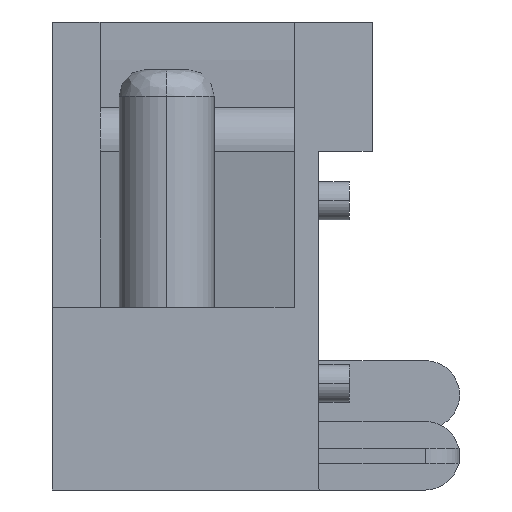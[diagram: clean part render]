
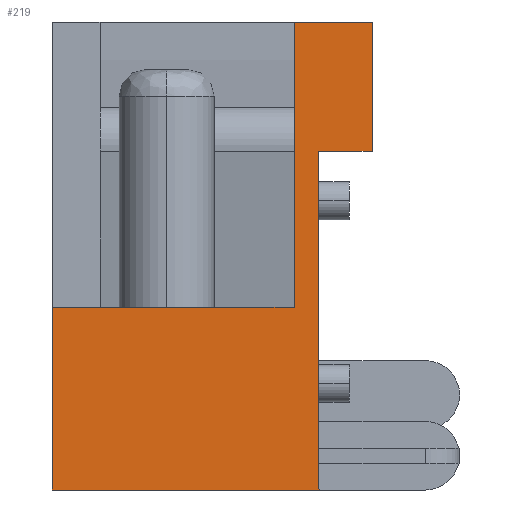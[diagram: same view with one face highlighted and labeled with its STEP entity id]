
A CAD part, left-side view. The second image highlights one B-rep face of the part: STEP entity #219.
In plain terms, the highlighted planar face has unit normal (-1, 0, 0).
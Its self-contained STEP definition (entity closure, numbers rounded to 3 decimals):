
#51 = VERTEX_POINT ( 'NONE', #521 ) ;
#54 = EDGE_CURVE ( 'NONE', #55, #51, #519, .T. ) ;
#55 = VERTEX_POINT ( 'NONE', #515 ) ;
#219 = ADVANCED_FACE ( 'NONE', ( #965 ), #963, .T. ) ;
#220 = EDGE_LOOP ( 'NONE', ( #221, #223, #280, #281, #282, #283, #284, #285 ) ) ;
#221 = ORIENTED_EDGE ( 'NONE', *, *, #222, .F. ) ;
#222 = EDGE_CURVE ( 'NONE', #296, #51, #964, .T. ) ;
#223 = ORIENTED_EDGE ( 'NONE', *, *, #295, .T. ) ;
#240 = EDGE_CURVE ( 'NONE', #1821, #1860, #999, .T. ) ;
#280 = ORIENTED_EDGE ( 'NONE', *, *, #1851, .T. ) ;
#281 = ORIENTED_EDGE ( 'NONE', *, *, #240, .T. ) ;
#282 = ORIENTED_EDGE ( 'NONE', *, *, #1872, .T. ) ;
#283 = ORIENTED_EDGE ( 'NONE', *, *, #1874, .T. ) ;
#284 = ORIENTED_EDGE ( 'NONE', *, *, #1892, .T. ) ;
#285 = ORIENTED_EDGE ( 'NONE', *, *, #54, .T. ) ;
#295 = EDGE_CURVE ( 'NONE', #296, #1820, #1144, .T. ) ;
#296 = VERTEX_POINT ( 'NONE', #1140 ) ;
#515 = CARTESIAN_POINT ( 'NONE',  ( -5.4, 7.8, -12.3 ) ) ;
#516 = DIRECTION ( 'NONE',  ( 0., -1., 0. ) ) ;
#517 = VECTOR ( 'NONE', #516, 1000. ) ;
#518 = CARTESIAN_POINT ( 'NONE',  ( -5.4, 0.8, -12.3 ) ) ;
#519 = LINE ( 'NONE', #518, #517 ) ;
#521 = CARTESIAN_POINT ( 'NONE',  ( -5.4, 0.8, -12.3 ) ) ;
#956 = DIRECTION ( 'NONE',  ( 0., 0., -1. ) ) ;
#957 = VECTOR ( 'NONE', #956, 1000. ) ;
#958 = CARTESIAN_POINT ( 'NONE',  ( -5.4, 0.8, -12.3 ) ) ;
#959 = DIRECTION ( 'NONE',  ( 0., -1., 0. ) ) ;
#960 = DIRECTION ( 'NONE',  ( -1., 0., 0. ) ) ;
#961 = CARTESIAN_POINT ( 'NONE',  ( -5.4, 7.8, -12.3 ) ) ;
#962 = AXIS2_PLACEMENT_3D ( 'NONE', #961, #960, #959 ) ;
#963 = PLANE ( 'NONE',  #962 ) ;
#964 = LINE ( 'NONE', #958, #957 ) ;
#965 = FACE_OUTER_BOUND ( 'NONE', #220, .T. ) ;
#993 = DIRECTION ( 'NONE',  ( 0., 1., 0. ) ) ;
#994 = VECTOR ( 'NONE', #993, 1000. ) ;
#995 = CARTESIAN_POINT ( 'NONE',  ( -5.4, 7.8, 0. ) ) ;
#999 = LINE ( 'NONE', #995, #994 ) ;
#1140 = CARTESIAN_POINT ( 'NONE',  ( -5.4, 0.8, -3.4 ) ) ;
#1141 = DIRECTION ( 'NONE',  ( 0., -1., 0. ) ) ;
#1142 = VECTOR ( 'NONE', #1141, 1000. ) ;
#1143 = CARTESIAN_POINT ( 'NONE',  ( -5.4, 7.8, -3.4 ) ) ;
#1144 = LINE ( 'NONE', #1143, #1142 ) ;
#1385 = CARTESIAN_POINT ( 'NONE',  ( -5.4, -0.6, 0. ) ) ;
#1386 = CARTESIAN_POINT ( 'NONE',  ( -5.4, -0.6, -3.4 ) ) ;
#1403 = DIRECTION ( 'NONE',  ( 0., 0., 1. ) ) ;
#1404 = VECTOR ( 'NONE', #1403, 1000. ) ;
#1405 = CARTESIAN_POINT ( 'NONE',  ( -5.4, -0.6, -12.3 ) ) ;
#1406 = LINE ( 'NONE', #1405, #1404 ) ;
#1437 = CARTESIAN_POINT ( 'NONE',  ( -5.4, 7.8, -7.5 ) ) ;
#1438 = DIRECTION ( 'NONE',  ( 0., 1., 0. ) ) ;
#1439 = VECTOR ( 'NONE', #1438, 1000. ) ;
#1440 = CARTESIAN_POINT ( 'NONE',  ( -5.4, 7.8, -7.5 ) ) ;
#1441 = LINE ( 'NONE', #1440, #1439 ) ;
#1446 = DIRECTION ( 'NONE',  ( 0., 0., -1. ) ) ;
#1447 = VECTOR ( 'NONE', #1446, 1000. ) ;
#1448 = CARTESIAN_POINT ( 'NONE',  ( -5.4, 1.45, -12.3 ) ) ;
#1449 = LINE ( 'NONE', #1448, #1447 ) ;
#1456 = CARTESIAN_POINT ( 'NONE',  ( -5.4, 1.45, -7.5 ) ) ;
#1457 = CARTESIAN_POINT ( 'NONE',  ( -5.4, 1.45, 0. ) ) ;
#1508 = DIRECTION ( 'NONE',  ( 0., 0., -1. ) ) ;
#1509 = VECTOR ( 'NONE', #1508, 1000. ) ;
#1510 = CARTESIAN_POINT ( 'NONE',  ( -5.4, 7.8, -12.3 ) ) ;
#1511 = LINE ( 'NONE', #1510, #1509 ) ;
#1820 = VERTEX_POINT ( 'NONE', #1386 ) ;
#1821 = VERTEX_POINT ( 'NONE', #1385 ) ;
#1851 = EDGE_CURVE ( 'NONE', #1820, #1821, #1406, .T. ) ;
#1860 = VERTEX_POINT ( 'NONE', #1457 ) ;
#1869 = VERTEX_POINT ( 'NONE', #1456 ) ;
#1872 = EDGE_CURVE ( 'NONE', #1860, #1869, #1449, .T. ) ;
#1874 = EDGE_CURVE ( 'NONE', #1869, #1876, #1441, .T. ) ;
#1876 = VERTEX_POINT ( 'NONE', #1437 ) ;
#1892 = EDGE_CURVE ( 'NONE', #1876, #55, #1511, .T. ) ;
